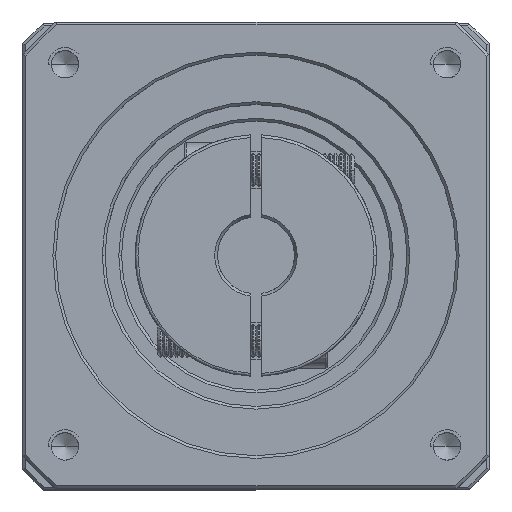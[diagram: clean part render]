
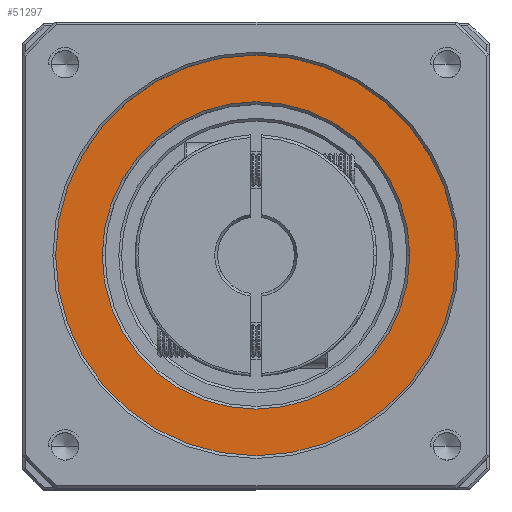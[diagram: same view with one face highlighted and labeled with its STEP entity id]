
A CAD part, top view. The second image highlights one B-rep face of the part: STEP entity #51297.
In plain terms, the highlighted planar face has unit normal (0, 0, 1).
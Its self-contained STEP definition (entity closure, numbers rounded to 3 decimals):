
#6152 = VERTEX_POINT ( 'NONE', #22296 ) ;
#6724 = DIRECTION ( 'NONE',  ( 1., 0., 0. ) ) ;
#8559 = CARTESIAN_POINT ( 'NONE',  ( -93.575, 34.038, 33.892 ) ) ;
#9362 = DIRECTION ( 'NONE',  ( 0., 0., -1. ) ) ;
#17548 = DIRECTION ( 'NONE',  ( 1., 0., 0. ) ) ;
#19087 = VERTEX_POINT ( 'NONE', #56514 ) ;
#22296 = CARTESIAN_POINT ( 'NONE',  ( -130.075, 34.038, 33.892 ) ) ;
#23060 = DIRECTION ( 'NONE',  ( 0., 0., 1. ) ) ;
#24660 = VERTEX_POINT ( 'NONE', #112966 ) ;
#25350 = EDGE_LOOP ( 'NONE', ( #76128, #102018 ) ) ;
#27362 = CARTESIAN_POINT ( 'NONE',  ( -93.575, 34.038, 33.892 ) ) ;
#36410 = DIRECTION ( 'NONE',  ( 1., 0., 0. ) ) ;
#43543 = EDGE_LOOP ( 'NONE', ( #95313, #62549 ) ) ;
#45457 = CIRCLE ( 'NONE', #57035, 36.5 ) ;
#51297 = ADVANCED_FACE ( 'NONE', ( #66452, #90255 ), #89000, .T. ) ;
#53173 = CARTESIAN_POINT ( 'NONE',  ( -57.075, 34.038, 33.892 ) ) ;
#53496 = CIRCLE ( 'NONE', #109502, 36.5 ) ;
#56514 = CARTESIAN_POINT ( 'NONE',  ( -65.575, 34.038, 33.892 ) ) ;
#57035 = AXIS2_PLACEMENT_3D ( 'NONE', #27362, #90148, #36410 ) ;
#59275 = EDGE_CURVE ( 'NONE', #112015, #6152, #53496, .T. ) ;
#60533 = DIRECTION ( 'NONE',  ( 0., 0., -1. ) ) ;
#62549 = ORIENTED_EDGE ( 'NONE', *, *, #62587, .T. ) ;
#62587 = EDGE_CURVE ( 'NONE', #24660, #19087, #75895, .T. ) ;
#63199 = CARTESIAN_POINT ( 'NONE',  ( -93.575, 34.038, 33.892 ) ) ;
#66452 = FACE_OUTER_BOUND ( 'NONE', #25350, .T. ) ;
#69938 = CIRCLE ( 'NONE', #109857, 28. ) ;
#71440 = DIRECTION ( 'NONE',  ( 0., 0., 1. ) ) ;
#72280 = DIRECTION ( 'NONE',  ( 1., 0., 0. ) ) ;
#75664 = EDGE_CURVE ( 'NONE', #6152, #112015, #45457, .T. ) ;
#75895 = CIRCLE ( 'NONE', #114613, 28. ) ;
#76128 = ORIENTED_EDGE ( 'NONE', *, *, #59275, .T. ) ;
#76886 = CARTESIAN_POINT ( 'NONE',  ( -93.575, 34.038, 33.892 ) ) ;
#78507 = AXIS2_PLACEMENT_3D ( 'NONE', #8559, #71440, #17548 ) ;
#85868 = DIRECTION ( 'NONE',  ( 1., 0., 0. ) ) ;
#89000 = PLANE ( 'NONE',  #78507 ) ;
#90148 = DIRECTION ( 'NONE',  ( 0., 0., 1. ) ) ;
#90255 = FACE_BOUND ( 'NONE', #43543, .T. ) ;
#95313 = ORIENTED_EDGE ( 'NONE', *, *, #106545, .T. ) ;
#102018 = ORIENTED_EDGE ( 'NONE', *, *, #75664, .T. ) ;
#106545 = EDGE_CURVE ( 'NONE', #19087, #24660, #69938, .T. ) ;
#109502 = AXIS2_PLACEMENT_3D ( 'NONE', #76886, #23060, #85868 ) ;
#109857 = AXIS2_PLACEMENT_3D ( 'NONE', #63199, #9362, #72280 ) ;
#112015 = VERTEX_POINT ( 'NONE', #53173 ) ;
#112966 = CARTESIAN_POINT ( 'NONE',  ( -121.575, 34.038, 33.892 ) ) ;
#114082 = CARTESIAN_POINT ( 'NONE',  ( -93.575, 34.038, 33.892 ) ) ;
#114613 = AXIS2_PLACEMENT_3D ( 'NONE', #114082, #60533, #6724 ) ;
